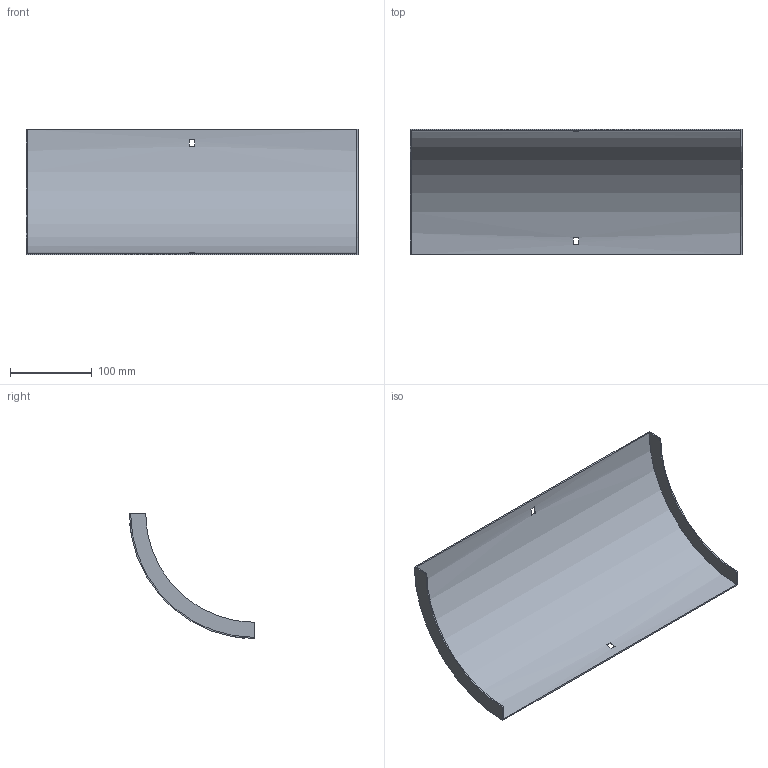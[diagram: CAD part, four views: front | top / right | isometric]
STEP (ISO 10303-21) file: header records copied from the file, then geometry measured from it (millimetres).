
FILE_DESCRIPTION (( 'STEP AP214' ), '1' );
FILE_NAME ('33N1B400.step', '2025-02-21T09:18:10', ( '' ), ( '' ), 'SwSTEP 2.0', 'SolidWorks 2023', '' );
FILE_SCHEMA (( 'AUTOMOTIVE_DESIGN' ));
Length unit declared in the file: millimetre
Products named in the file (1): 33N1B400
Bounding box: 407 x 153.5 x 153.5 mm (x, y, z)
Volume: 158751.1 mm3; surface area: 213726.4 mm2
Topology: 1 solids, 1 shells, 18 faces, 48 edges, 32 vertices
Faces by surface type: plane 14, cylinder 4
Entity records: 599 total; most frequent: DIRECTION 102, CARTESIAN_POINT 99, ORIENTED_EDGE 96, EDGE_CURVE 48, AXIS2_PLACEMENT_3D 35, LINE 32, VERTEX_POINT 32, VECTOR 32
